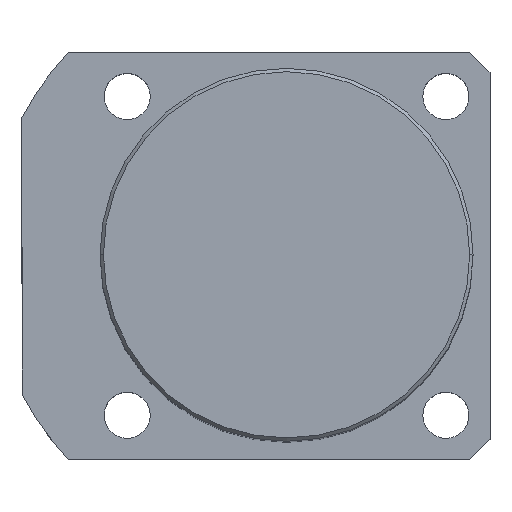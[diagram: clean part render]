
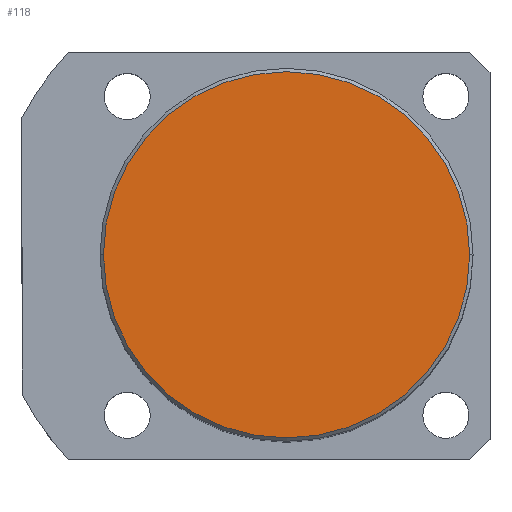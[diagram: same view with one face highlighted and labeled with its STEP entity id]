
A CAD part, top view. The second image highlights one B-rep face of the part: STEP entity #118.
In plain terms, the highlighted planar face has unit normal (0, 0, 1).
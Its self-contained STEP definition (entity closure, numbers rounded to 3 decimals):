
#118 = ADVANCED_FACE ( 'NONE', ( #178 ), #781, .T. ) ;
#178 = FACE_OUTER_BOUND ( 'NONE', #2155, .T. ) ;
#228 = VERTEX_POINT ( 'NONE', #823 ) ;
#265 = DIRECTION ( 'NONE',  ( 1., 0., 0. ) ) ;
#481 = AXIS2_PLACEMENT_3D ( 'NONE', #639, #2148, #975 ) ;
#586 = CARTESIAN_POINT ( 'NONE',  ( 0., 0., 100. ) ) ;
#597 = CIRCLE ( 'NONE', #647, 27. ) ;
#639 = CARTESIAN_POINT ( 'NONE',  ( 0., 0., 100. ) ) ;
#647 = AXIS2_PLACEMENT_3D ( 'NONE', #968, #2124, #1806 ) ;
#781 = PLANE ( 'NONE',  #481 ) ;
#823 = CARTESIAN_POINT ( 'NONE',  ( -27., 0., 100. ) ) ;
#968 = CARTESIAN_POINT ( 'NONE',  ( 0., 0., 100. ) ) ;
#975 = DIRECTION ( 'NONE',  ( 1., 0., 0. ) ) ;
#1040 = EDGE_CURVE ( 'NONE', #228, #1651, #1672, .T. ) ;
#1068 = CARTESIAN_POINT ( 'NONE',  ( 27., 0., 100. ) ) ;
#1090 = DIRECTION ( 'NONE',  ( 0., 0., 1. ) ) ;
#1231 = EDGE_CURVE ( 'NONE', #1651, #228, #597, .T. ) ;
#1527 = ORIENTED_EDGE ( 'NONE', *, *, #1231, .T. ) ;
#1651 = VERTEX_POINT ( 'NONE', #1068 ) ;
#1672 = CIRCLE ( 'NONE', #1708, 27. ) ;
#1708 = AXIS2_PLACEMENT_3D ( 'NONE', #586, #1090, #265 ) ;
#1806 = DIRECTION ( 'NONE',  ( 1., 0., 0. ) ) ;
#2001 = ORIENTED_EDGE ( 'NONE', *, *, #1040, .T. ) ;
#2124 = DIRECTION ( 'NONE',  ( 0., 0., 1. ) ) ;
#2148 = DIRECTION ( 'NONE',  ( 0., 0., 1. ) ) ;
#2155 = EDGE_LOOP ( 'NONE', ( #2001, #1527 ) ) ;
